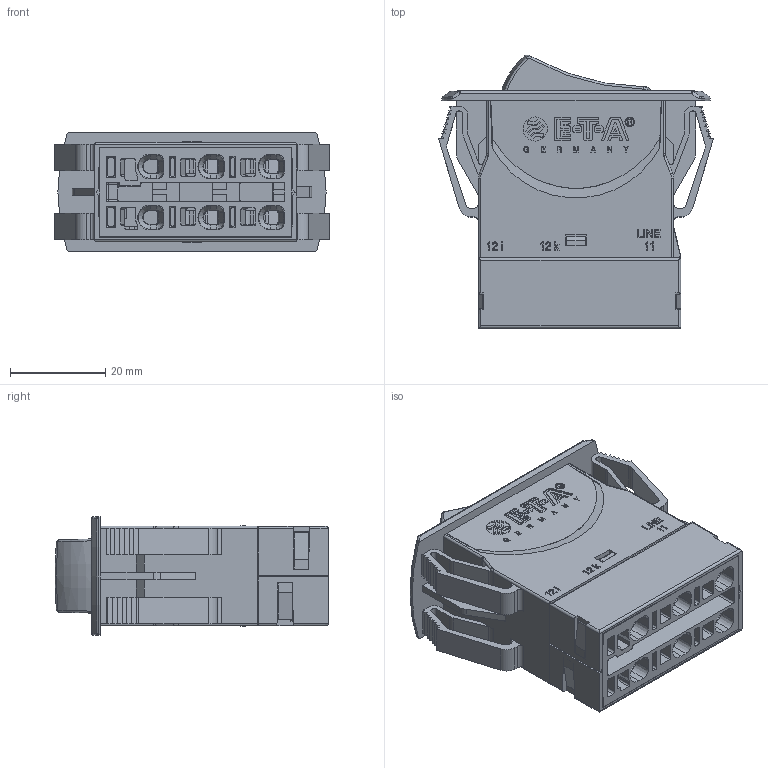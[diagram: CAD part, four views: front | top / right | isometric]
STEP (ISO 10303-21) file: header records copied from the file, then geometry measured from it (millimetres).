
FILE_DESCRIPTION((''),'2;1');
FILE_NAME('DUMMY-3120-N321-PT','2019-08-07T13:46:15',('wschmidt'),(''),'CREO PARAMETRIC BY PTC INC, 2017260','CREO PARAMETRIC BY PTC INC, 2017260','');
FILE_SCHEMA(('AUTOMOTIVE_DESIGN { 1 0 10303 214 1 1 1 1 }'));
Products named in the file (1): DUMMY-3120-N321-PT
Bounding box: 57.8 x 57.56 x 25 mm (x, y, z)
Volume: 41420.1 mm3; surface area: 25179 mm2
Topology: 1 solids, 15 shells, 3423 faces, 9321 edges, 6008 vertices
Faces by surface type: plane 1762, extrusion 834, cylinder 504, bspline 163, cone 62, torus 60, sphere 38
Entity records: 123098 total; most frequent: CARTESIAN_POINT 40625, ORIENTED_EDGE 18642, DIRECTION 13444, EDGE_CURVE 9321, VECTOR 6894, LINE 6060, VERTEX_POINT 6008, EDGE_LOOP 3631
